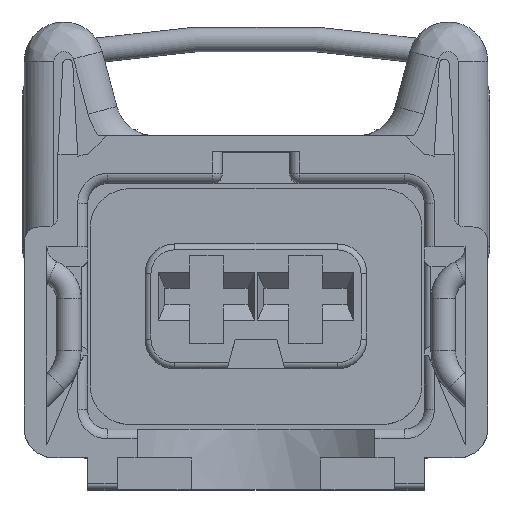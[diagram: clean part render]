
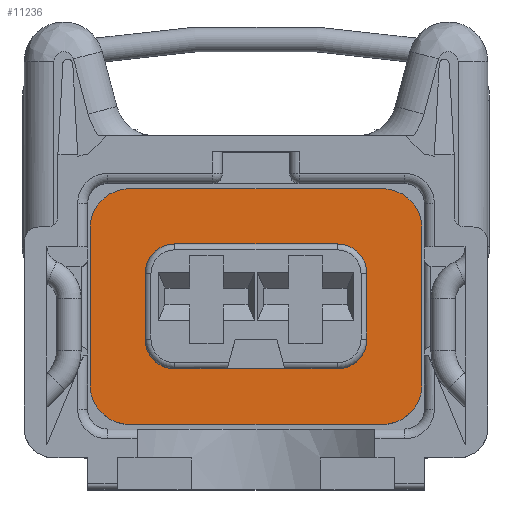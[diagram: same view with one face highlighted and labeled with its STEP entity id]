
A CAD part, top view. The second image highlights one B-rep face of the part: STEP entity #11236.
In plain terms, the highlighted planar face has unit normal (0, 0, 1).
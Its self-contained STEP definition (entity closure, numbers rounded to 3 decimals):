
#3527=DIRECTION('',(1.,0.,0.));
#3528=VECTOR('',#3527,2.648);
#3529=CARTESIAN_POINT('',(-4.1,-3.15,-11.));
#3530=LINE('',#3529,#3528);
#3539=CARTESIAN_POINT('',(-6.375,3.95,-11.));
#3540=DIRECTION('',(0.,0.,1.));
#3541=DIRECTION('',(0.,1.,0.));
#3542=AXIS2_PLACEMENT_3D('',#3539,#3540,#3541);
#3544=DIRECTION('',(-1.,0.,0.));
#3545=VECTOR('',#3544,12.75);
#3546=CARTESIAN_POINT('',(6.375,5.95,-11.));
#3547=LINE('',#3546,#3545);
#3548=CARTESIAN_POINT('',(6.375,3.95,-11.));
#3549=DIRECTION('',(0.,0.,1.));
#3550=DIRECTION('',(1.,0.,0.));
#3551=AXIS2_PLACEMENT_3D('',#3548,#3549,#3550);
#3553=DIRECTION('',(0.,1.,0.));
#3554=VECTOR('',#3553,7.9);
#3555=CARTESIAN_POINT('',(8.375,-3.95,-11.));
#3556=LINE('',#3555,#3554);
#3557=CARTESIAN_POINT('',(6.375,-3.95,-11.));
#3558=DIRECTION('',(0.,0.,1.));
#3559=DIRECTION('',(0.,-1.,0.));
#3560=AXIS2_PLACEMENT_3D('',#3557,#3558,#3559);
#3562=DIRECTION('',(1.,0.,0.));
#3563=VECTOR('',#3562,12.75);
#3564=CARTESIAN_POINT('',(-6.375,-5.95,-11.));
#3565=LINE('',#3564,#3563);
#3566=CARTESIAN_POINT('',(-6.375,-3.95,-11.));
#3567=DIRECTION('',(0.,0.,1.));
#3568=DIRECTION('',(-1.,0.,0.));
#3569=AXIS2_PLACEMENT_3D('',#3566,#3567,#3568);
#3571=DIRECTION('',(0.,-1.,0.));
#3572=VECTOR('',#3571,7.9);
#3573=CARTESIAN_POINT('',(-8.375,3.95,-11.));
#3574=LINE('',#3573,#3572);
#3575=DIRECTION('',(-1.,0.,0.));
#3576=VECTOR('',#3575,2.904);
#3577=CARTESIAN_POINT('',(1.452,-3.15,-11.));
#3578=LINE('',#3577,#3576);
#3611=DIRECTION('',(1.,0.,0.));
#3612=VECTOR('',#3611,2.648);
#3613=CARTESIAN_POINT('',(1.452,-3.15,-11.));
#3614=LINE('',#3613,#3612);
#4085=CARTESIAN_POINT('',(-4.1,-1.65,-11.));
#4086=DIRECTION('',(0.,0.,1.));
#4087=DIRECTION('',(-1.,0.,0.));
#4088=AXIS2_PLACEMENT_3D('',#4085,#4086,#4087);
#4099=DIRECTION('',(0.,-1.,0.));
#4100=VECTOR('',#4099,3.3);
#4101=CARTESIAN_POINT('',(-5.6,1.65,-11.));
#4102=LINE('',#4101,#4100);
#4111=CARTESIAN_POINT('',(-4.1,1.65,-11.));
#4112=DIRECTION('',(0.,0.,1.));
#4113=DIRECTION('',(0.,1.,0.));
#4114=AXIS2_PLACEMENT_3D('',#4111,#4112,#4113);
#4125=DIRECTION('',(-1.,0.,0.));
#4126=VECTOR('',#4125,8.2);
#4127=CARTESIAN_POINT('',(4.1,3.15,-11.));
#4128=LINE('',#4127,#4126);
#4137=CARTESIAN_POINT('',(4.1,1.65,-11.));
#4138=DIRECTION('',(0.,0.,1.));
#4139=DIRECTION('',(1.,0.,0.));
#4140=AXIS2_PLACEMENT_3D('',#4137,#4138,#4139);
#4151=DIRECTION('',(0.,1.,0.));
#4152=VECTOR('',#4151,3.3);
#4153=CARTESIAN_POINT('',(5.6,-1.65,-11.));
#4154=LINE('',#4153,#4152);
#4163=CARTESIAN_POINT('',(4.1,-1.65,-11.));
#4164=DIRECTION('',(0.,0.,1.));
#4165=DIRECTION('',(0.,-1.,0.));
#4166=AXIS2_PLACEMENT_3D('',#4163,#4164,#4165);
#6435=CARTESIAN_POINT('',(-6.375,5.95,-11.));
#6436=CARTESIAN_POINT('',(-8.375,3.95,-11.));
#6437=VERTEX_POINT('',#6435);
#6438=VERTEX_POINT('',#6436);
#6439=CARTESIAN_POINT('',(-8.375,-3.95,-11.));
#6440=VERTEX_POINT('',#6439);
#6441=CARTESIAN_POINT('',(-6.375,-5.95,-11.));
#6442=VERTEX_POINT('',#6441);
#6443=CARTESIAN_POINT('',(6.375,-5.95,-11.));
#6444=VERTEX_POINT('',#6443);
#6445=CARTESIAN_POINT('',(8.375,-3.95,-11.));
#6446=VERTEX_POINT('',#6445);
#6447=CARTESIAN_POINT('',(8.375,3.95,-11.));
#6448=VERTEX_POINT('',#6447);
#6449=CARTESIAN_POINT('',(6.375,5.95,-11.));
#6450=VERTEX_POINT('',#6449);
#6471=CARTESIAN_POINT('',(-4.1,3.15,-11.));
#6472=CARTESIAN_POINT('',(-5.6,1.65,-11.));
#6473=VERTEX_POINT('',#6471);
#6474=VERTEX_POINT('',#6472);
#6475=CARTESIAN_POINT('',(-5.6,-1.65,-11.));
#6476=VERTEX_POINT('',#6475);
#6477=CARTESIAN_POINT('',(-4.1,-3.15,-11.));
#6478=VERTEX_POINT('',#6477);
#6479=CARTESIAN_POINT('',(1.452,-3.15,-11.));
#6480=CARTESIAN_POINT('',(4.1,-3.15,-11.));
#6481=VERTEX_POINT('',#6479);
#6482=VERTEX_POINT('',#6480);
#6483=CARTESIAN_POINT('',(5.6,-1.65,-11.));
#6484=VERTEX_POINT('',#6483);
#6485=CARTESIAN_POINT('',(5.6,1.65,-11.));
#6486=VERTEX_POINT('',#6485);
#6487=CARTESIAN_POINT('',(4.1,3.15,-11.));
#6488=VERTEX_POINT('',#6487);
#6489=CARTESIAN_POINT('',(-1.452,-3.15,-11.));
#6490=VERTEX_POINT('',#6489);
#11193=CARTESIAN_POINT('',(0.,0.,-11.));
#11194=DIRECTION('',(0.,0.,1.));
#11195=DIRECTION('',(1.,0.,0.));
#11196=AXIS2_PLACEMENT_3D('',#11193,#11194,#11195);
#11197=PLANE('',#11196);
#11199=ORIENTED_EDGE('',*,*,#11198,.F.);
#11201=ORIENTED_EDGE('',*,*,#11200,.F.);
#11203=ORIENTED_EDGE('',*,*,#11202,.F.);
#11205=ORIENTED_EDGE('',*,*,#11204,.F.);
#11207=ORIENTED_EDGE('',*,*,#11206,.F.);
#11209=ORIENTED_EDGE('',*,*,#11208,.F.);
#11211=ORIENTED_EDGE('',*,*,#11210,.F.);
#11213=ORIENTED_EDGE('',*,*,#11212,.F.);
#11214=EDGE_LOOP('',(#11199,#11201,#11203,#11205,#11207,#11209,#11211,#11213));
#11215=FACE_OUTER_BOUND('',#11214,.F.);
#11216=ORIENTED_EDGE('',*,*,#11122,.F.);
#11218=ORIENTED_EDGE('',*,*,#11217,.T.);
#11220=ORIENTED_EDGE('',*,*,#11219,.T.);
#11222=ORIENTED_EDGE('',*,*,#11221,.T.);
#11224=ORIENTED_EDGE('',*,*,#11223,.T.);
#11226=ORIENTED_EDGE('',*,*,#11225,.T.);
#11228=ORIENTED_EDGE('',*,*,#11227,.T.);
#11230=ORIENTED_EDGE('',*,*,#11229,.T.);
#11232=ORIENTED_EDGE('',*,*,#11231,.T.);
#11233=ORIENTED_EDGE('',*,*,#11183,.T.);
#11234=EDGE_LOOP('',(#11216,#11218,#11220,#11222,#11224,#11226,#11228,#11230,
#11232,#11233));
#11235=FACE_BOUND('',#11234,.F.);
#3543=CIRCLE('',#3542,2.);
#3552=CIRCLE('',#3551,2.);
#3561=CIRCLE('',#3560,2.);
#3570=CIRCLE('',#3569,2.);
#4089=CIRCLE('',#4088,1.5);
#4115=CIRCLE('',#4114,1.5);
#4141=CIRCLE('',#4140,1.5);
#4167=CIRCLE('',#4166,1.5);
#11122=EDGE_CURVE('',#6481,#6490,#3578,.T.);
#11183=EDGE_CURVE('',#6478,#6490,#3530,.T.);
#11198=EDGE_CURVE('',#6437,#6438,#3543,.T.);
#11200=EDGE_CURVE('',#6450,#6437,#3547,.T.);
#11202=EDGE_CURVE('',#6448,#6450,#3552,.T.);
#11204=EDGE_CURVE('',#6446,#6448,#3556,.T.);
#11206=EDGE_CURVE('',#6444,#6446,#3561,.T.);
#11208=EDGE_CURVE('',#6442,#6444,#3565,.T.);
#11210=EDGE_CURVE('',#6440,#6442,#3570,.T.);
#11212=EDGE_CURVE('',#6438,#6440,#3574,.T.);
#11217=EDGE_CURVE('',#6481,#6482,#3614,.T.);
#11219=EDGE_CURVE('',#6482,#6484,#4167,.T.);
#11221=EDGE_CURVE('',#6484,#6486,#4154,.T.);
#11223=EDGE_CURVE('',#6486,#6488,#4141,.T.);
#11225=EDGE_CURVE('',#6488,#6473,#4128,.T.);
#11227=EDGE_CURVE('',#6473,#6474,#4115,.T.);
#11229=EDGE_CURVE('',#6474,#6476,#4102,.T.);
#11231=EDGE_CURVE('',#6476,#6478,#4089,.T.);
#11236=ADVANCED_FACE('',(#11215,#11235),#11197,.T.);
